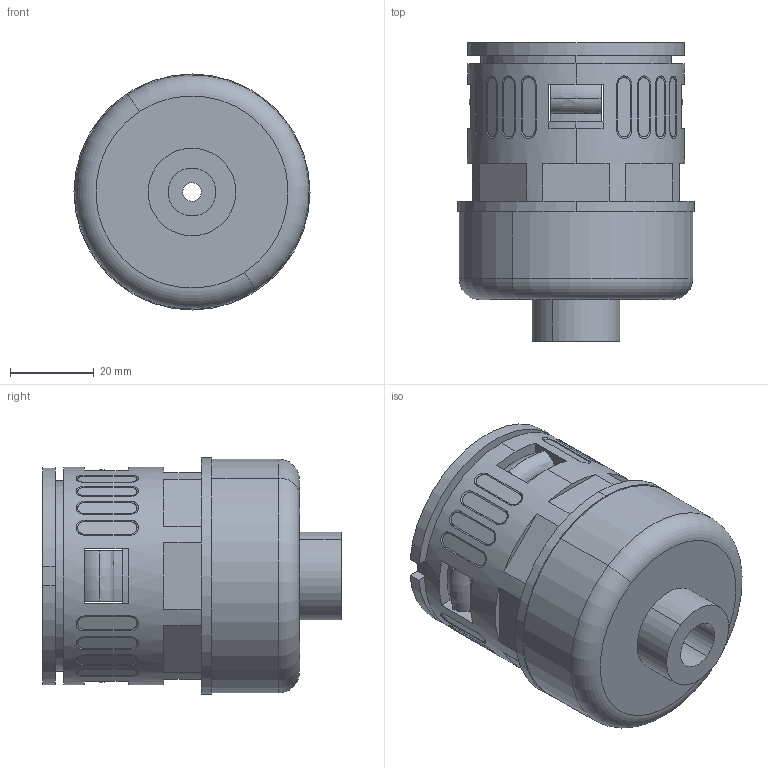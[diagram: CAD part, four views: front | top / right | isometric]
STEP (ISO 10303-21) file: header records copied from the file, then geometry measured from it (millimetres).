
FILE_DESCRIPTION (( 'STEP AP214' ), '1' );
FILE_NAME ('0000005189.STEP', '2017-04-05T05:21:24', ( 'HP' ), ( 'Hewlett-Packard Company' ), 'SwSTEP 2.0', 'SolidWorks 2014', '' );
FILE_SCHEMA (( 'AUTOMOTIVE_DESIGN' ));
Length unit declared in the file: millimetre
Products named in the file (4): 0000005182; 0000005186; 0000005181; 0000005189
Assembly tree (3 placements, depth 2):
  0000005189
    0000005181
    0000005186
    0000005182
Bounding box: 56.5 x 71.49 x 56.5 mm (x, y, z)
Volume: 57838.6 mm3; surface area: 39070.5 mm2
Topology: 3 solids, 3 shells, 236 faces, 631 edges, 418 vertices
Faces by surface type: plane 109, cylinder 71, bspline 32, torus 14, cone 10
Entity records: 11761 total; most frequent: CARTESIAN_POINT 5627, ORIENTED_EDGE 1262, DIRECTION 1215, EDGE_CURVE 631, AXIS2_PLACEMENT_3D 462, VERTEX_POINT 418, LINE 291, VECTOR 291
